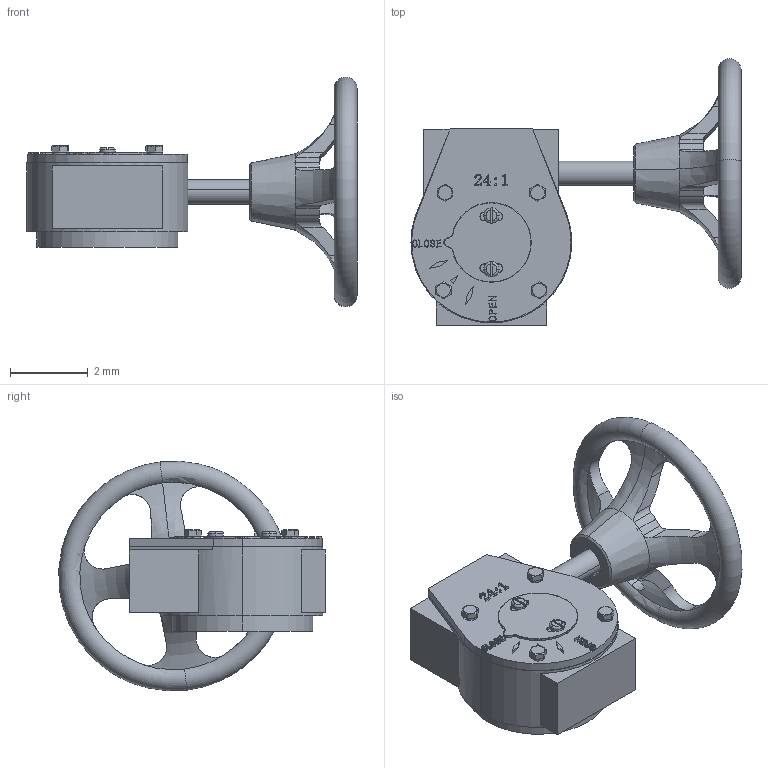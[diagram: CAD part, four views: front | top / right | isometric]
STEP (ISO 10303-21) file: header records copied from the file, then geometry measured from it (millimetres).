
FILE_DESCRIPTION(('Open CASCADE Model'),'2;1');
FILE_NAME('Open CASCADE Shape Model','2022-09-14T09:27:14',('Author'),( 'Open CASCADE'),'Open CASCADE STEP processor 7.3','Open CASCADE 7.3' ,'Unknown');
FILE_SCHEMA(('AUTOMOTIVE_DESIGN { 1 0 10303 214 1 1 1 1 }'));
Length unit declared in the file: millimetre
Products named in the file (16): Open CASCADE STEP translator 7.3 1; Open CASCADE STEP translator 7.3 1.1; Open CASCADE STEP translator 7.3 1.2; Open CASCADE STEP translator 7.3 1.3; Open CASCADE STEP translator 7.3 1.4; Open CASCADE STEP translator 7.3 1.5; Open CASCADE STEP translator 7.3 1.6; Open CASCADE STEP translator 7.3 1.7; Open CASCADE STEP translator 7.3 1.8; Open CASCADE STEP translator 7.3 1.9; Open CASCADE STEP translator 7.3 1.10; Open CASCADE STEP translator 7.3 1.11; Open CASCADE STEP translator 7.3 1.12; Open CASCADE STEP translator 7.3 1.13; Open CASCADE STEP translator 7.3 1.14; Open CASCADE STEP translator 7.3 1.15
Assembly tree (15 placements, depth 2):
  Open CASCADE STEP translator 7.3 1
    Open CASCADE STEP translator 7.3 1.1
    Open CASCADE STEP translator 7.3 1.2
    Open CASCADE STEP translator 7.3 1.3
    Open CASCADE STEP translator 7.3 1.4
    Open CASCADE STEP translator 7.3 1.5
    Open CASCADE STEP translator 7.3 1.6
    Open CASCADE STEP translator 7.3 1.7
    Open CASCADE STEP translator 7.3 1.8
    Open CASCADE STEP translator 7.3 1.9
    Open CASCADE STEP translator 7.3 1.10
    Open CASCADE STEP translator 7.3 1.11
    Open CASCADE STEP translator 7.3 1.12
    Open CASCADE STEP translator 7.3 1.13
    Open CASCADE STEP translator 7.3 1.14
    Open CASCADE STEP translator 7.3 1.15
Bounding box: 8.49 x 6.85 x 5.9 mm (x, y, z)
Volume: 49.9 mm3; surface area: 206.1 mm2
Topology: 15 solids, 15 shells, 578 faces, 1477 edges, 952 vertices
Faces by surface type: plane 281, bspline 111, cylinder 107, cone 40, torus 39
Entity records: 52643 total; most frequent: CARTESIAN_POINT 25210, DIRECTION 4282, ORIENTED_EDGE 2930, PCURVE 2930, DEFINITIONAL_REPRESENTATION 2930, LINE 2610, VECTOR 2610, EDGE_CURVE 1465
